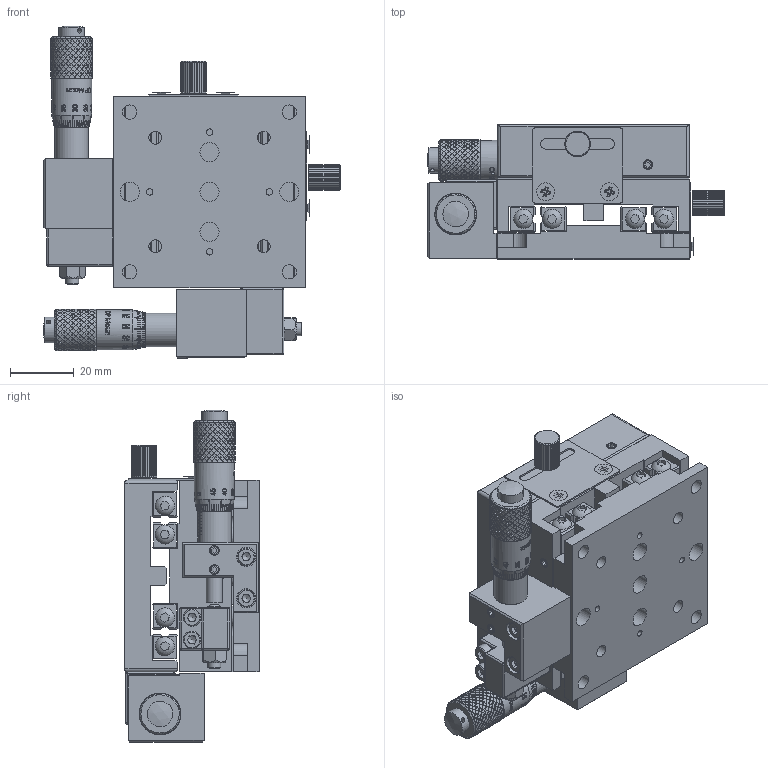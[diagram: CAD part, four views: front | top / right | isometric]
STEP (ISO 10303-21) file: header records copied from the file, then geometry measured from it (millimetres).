
FILE_DESCRIPTION (( 'STEP AP203' ), '1' );
FILE_NAME ('TSS60XY-05.step', '2017-01-10T09:21:47', ( '¦K¬P' ), ( '' ), 'SwSTEP 2.0', 'SolidWorks 2012', '' );
FILE_SCHEMA (( 'CONFIG_CONTROL_DESIGN' ));
Products named in the file (1): TSS60XY-05
Bounding box: 93 x 42 x 103.99 mm (x, y, z)
Surface area: 60256.8 mm2 (no closed solid volume)
Topology: 0 solids, 169 shells, 3337 faces, 13010 edges, 9295 vertices
Faces by surface type: bspline 1385, cylinder 1109, plane 768, cone 39, sphere 20, torus 16
Full cylindrical faces by diameter (mm): 1.4 x2, 2 x8, 3 x17, 3.3 x10, 4 x6, 4.5 x4, 5 x4, 5.5 x4, 6 x9, 8 x2, 10 x2, 10.6 x1, 12.5 x2, 16 x1
Entity records: 283893 total; most frequent: CARTESIAN_POINT 203232, ORIENTED_EDGE 20989, EDGE_CURVE 12828, DIRECTION 9467, VERTEX_POINT 9259, B_SPLINE_CURVE_WITH_KNOTS 4599, EDGE_LOOP 3774, FACE_OUTER_BOUND 3395
